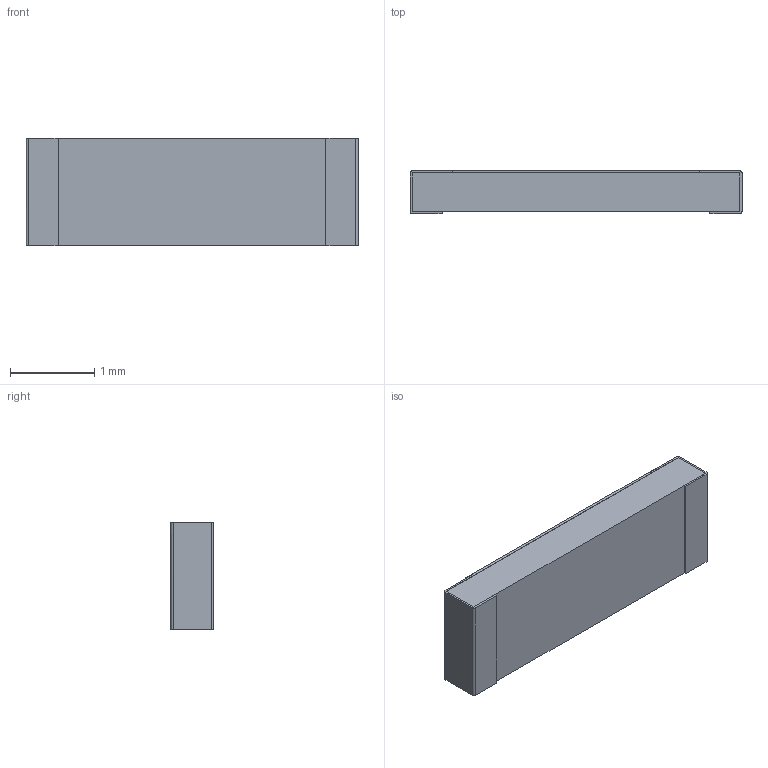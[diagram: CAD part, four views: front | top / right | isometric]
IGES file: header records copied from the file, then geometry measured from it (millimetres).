
Global section: file name: PTN1505; native system: Autodesk Inventor LT ; preprocessor: unknown; author: Neil; date: 20200108.145435; units: inch
Bounding box: 3.94 x 0.52 x 1.27 mm (x, y, z)
Volume: 2.5 mm3; surface area: 35.3 mm2
Topology: 5 solids, 5 shells, 98 faces, 264 edges, 176 vertices
Faces by surface type: bspline 98
